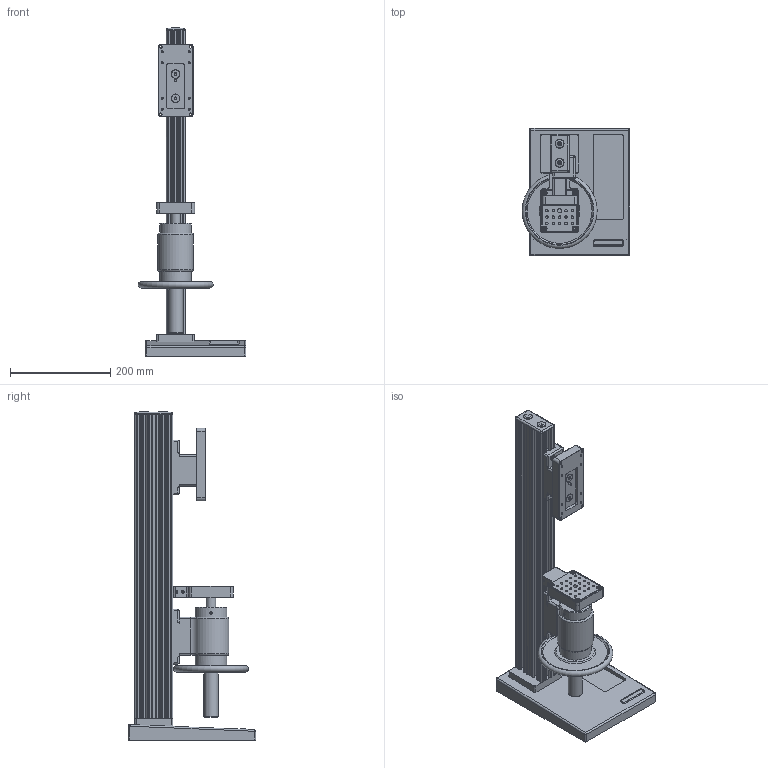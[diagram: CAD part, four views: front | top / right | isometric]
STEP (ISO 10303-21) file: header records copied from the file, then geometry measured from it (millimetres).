
FILE_DESCRIPTION((''),'2;1');
FILE_NAME('F:\CAD files\Itr\3D MARKETING MODELS\MANUAL TEST STANDS\TSC1000\TSC1000.stp','2017-06-21T14:57:48',('mlampen'),(''),'Autodesk Inventor 2010','Autodesk Inventor 2010','');
FILE_SCHEMA(('AUTOMOTIVE_DESIGN { 1 0 10303 214 1 1 1 1 }'));
Length unit declared in the file: inch
Products named in the file (6): Assembly1; Part2; Part4; Part6; Part8; Part10
Assembly tree (5 placements, depth 2):
  Assembly1
    Part2
    Part4
    Part6
    Part8
    Part10
Bounding box: 215.26 x 254 x 658.57 mm (x, y, z)
Volume: 3536469.4 mm3; surface area: 747477.6 mm2
Topology: 5 solids, 12 shells, 1363 faces, 3547 edges, 2322 vertices
Faces by surface type: plane 640, cylinder 377, cone 291, bspline 21, sphere 20, torus 14
Full cylindrical faces by diameter (mm): 1.575 x1, 3.556 x10, 4.039 x13, 4.75 x17, 4.826 x24, 5.207 x4, 5.334 x2, 5.74 x1, 6.223 x4, 6.35 x4, 6.553 x2, 7.112 x8, 7.925 x8, 7.938 x1, 8.001 x1, 8.331 x2, 8.382 x4, 8.433 x2, 8.636 x4, 9.525 x8, 10.16 x4, 10.668 x8, 11.906 x4, 15.875 x4, 16.662 x6, 17.653 x2, 19.05 x1, 19.431 x1, 21.59 x2, 22.225 x1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
Entity records: 47158 total; most frequent: CARTESIAN_POINT 16722, ORIENTED_EDGE 6324, DIRECTION 6054, EDGE_CURVE 3162, AXIS2_PLACEMENT_3D 2398, VERTEX_POINT 2209, EDGE_LOOP 1801, FACE_OUTER_BOUND 1347
